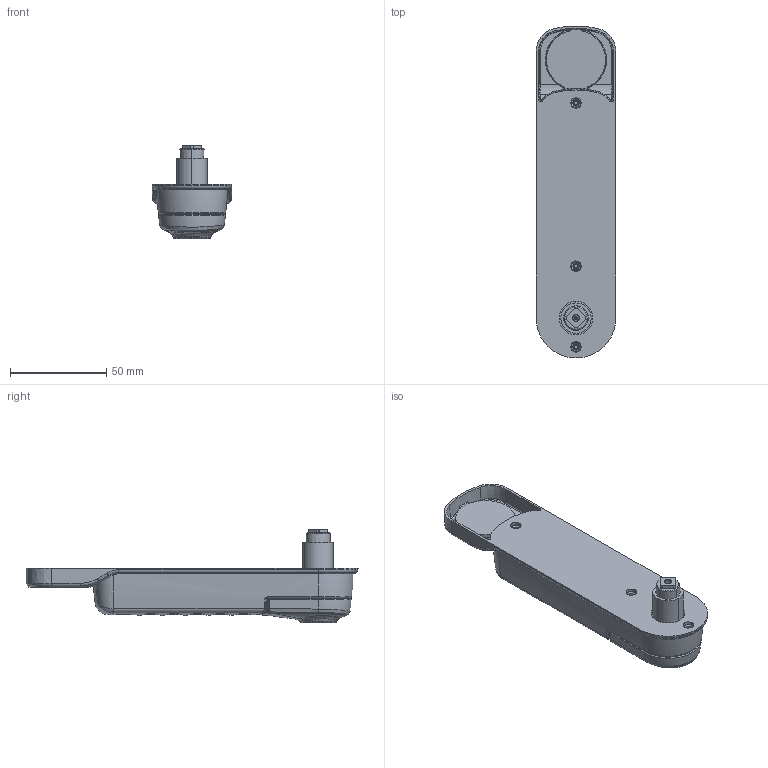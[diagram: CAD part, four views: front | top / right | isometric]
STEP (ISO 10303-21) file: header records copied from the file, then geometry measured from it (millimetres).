
FILE_DESCRIPTION (( 'STEP AP214' ), '1' );
FILE_NAME ('3780_Escutcheon.STEP', '2014-10-31T08:19:06', ( '' ), ( '' ), 'SwSTEP 2.0', 'SolidWorks 2014', '' );
FILE_SCHEMA (( 'AUTOMOTIVE_DESIGN' ));
Length unit declared in the file: millimetre
Products named in the file (4): Disc_number; 9226506_DCL_Escutcheon; 3780_d; 3780_Escutcheon
Assembly tree (3 placements, depth 2):
  3780_Escutcheon
    3780_d
    9226506_DCL_Escutcheon
    Disc_number
Bounding box: 41.52 x 172.85 x 48.87 mm (x, y, z)
Volume: 65518.6 mm3; surface area: 67215.4 mm2
Topology: 9 solids, 9 shells, 1666 faces, 4449 edges, 2914 vertices
Faces by surface type: plane 856, bspline 553, cylinder 141, cone 69, torus 47
Entity records: 91730 total; most frequent: CARTESIAN_POINT 40707, ORIENTED_EDGE 8890, DIRECTION 5858, EDGE_CURVE 4445, VERTEX_POINT 2914, VECTOR 2676, LINE 2676, EDGE_LOOP 1833
